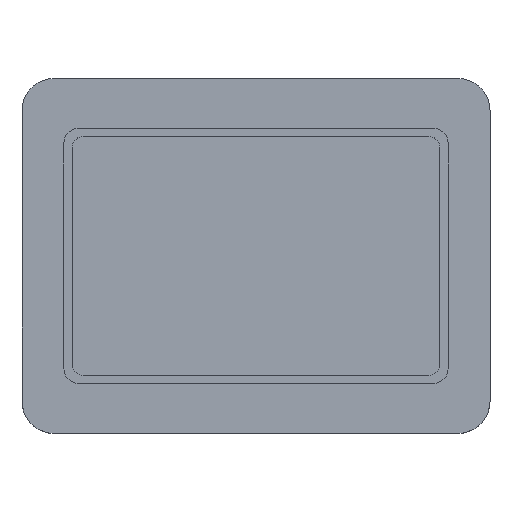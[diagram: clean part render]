
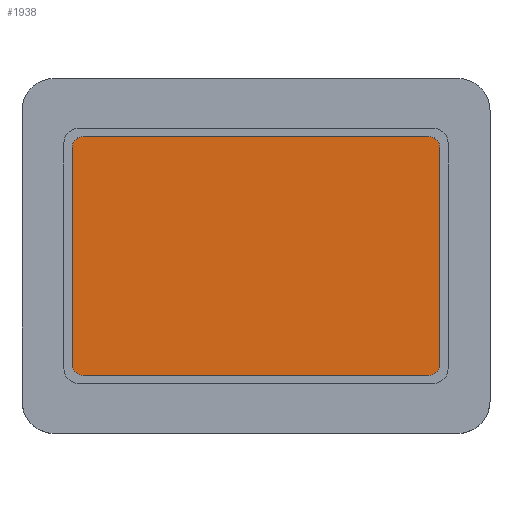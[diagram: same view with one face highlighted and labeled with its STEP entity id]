
A CAD part, top view. The second image highlights one B-rep face of the part: STEP entity #1938.
In plain terms, the highlighted planar face has unit normal (0, 0, 1).
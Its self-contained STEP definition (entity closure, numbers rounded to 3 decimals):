
#1331 = PLANE('',#1332);
#1332 = AXIS2_PLACEMENT_3D('',#1333,#1334,#1335);
#1333 = CARTESIAN_POINT('',(-11.4,-7.4,28.7));
#1334 = DIRECTION('',(0.,1.,0.));
#1335 = DIRECTION('',(1.,0.,0.));
#1359 = CYLINDRICAL_SURFACE('',#1360,0.7);
#1360 = AXIS2_PLACEMENT_3D('',#1361,#1362,#1363);
#1361 = CARTESIAN_POINT('',(-10.7,-6.7,28.7));
#1362 = DIRECTION('',(0.,0.,1.));
#1363 = DIRECTION('',(0.,-1.,0.));
#1386 = PLANE('',#1387);
#1387 = AXIS2_PLACEMENT_3D('',#1388,#1389,#1390);
#1388 = CARTESIAN_POINT('',(-11.4,7.4,28.7));
#1389 = DIRECTION('',(1.,0.,-0.));
#1390 = DIRECTION('',(0.,-1.,0.));
#1414 = CYLINDRICAL_SURFACE('',#1415,0.7);
#1415 = AXIS2_PLACEMENT_3D('',#1416,#1417,#1418);
#1416 = CARTESIAN_POINT('',(-10.7,6.7,28.7));
#1417 = DIRECTION('',(0.,0.,1.));
#1418 = DIRECTION('',(-0.,1.,0.));
#1441 = PLANE('',#1442);
#1442 = AXIS2_PLACEMENT_3D('',#1443,#1444,#1445);
#1443 = CARTESIAN_POINT('',(11.4,7.4,28.7));
#1444 = DIRECTION('',(0.,-1.,0.));
#1445 = DIRECTION('',(-1.,0.,0.));
#1469 = CYLINDRICAL_SURFACE('',#1470,0.7);
#1470 = AXIS2_PLACEMENT_3D('',#1471,#1472,#1473);
#1471 = CARTESIAN_POINT('',(10.7,6.7,28.7));
#1472 = DIRECTION('',(0.,0.,1.));
#1473 = DIRECTION('',(1.,0.,-0.));
#1496 = PLANE('',#1497);
#1497 = AXIS2_PLACEMENT_3D('',#1498,#1499,#1500);
#1498 = CARTESIAN_POINT('',(11.4,-7.4,28.7));
#1499 = DIRECTION('',(-1.,0.,0.));
#1500 = DIRECTION('',(0.,1.,0.));
#1522 = CYLINDRICAL_SURFACE('',#1523,0.7);
#1523 = AXIS2_PLACEMENT_3D('',#1524,#1525,#1526);
#1524 = CARTESIAN_POINT('',(10.7,-6.7,28.7));
#1525 = DIRECTION('',(0.,0.,1.));
#1526 = DIRECTION('',(0.,-1.,0.));
#1537 = EDGE_CURVE('',#1538,#1540,#1542,.T.);
#1538 = VERTEX_POINT('',#1539);
#1539 = CARTESIAN_POINT('',(-10.7,-7.4,28.7));
#1540 = VERTEX_POINT('',#1541);
#1541 = CARTESIAN_POINT('',(10.7,-7.4,28.7));
#1542 = SURFACE_CURVE('',#1543,(#1547,#1554),.PCURVE_S1.);
#1543 = LINE('',#1544,#1545);
#1544 = CARTESIAN_POINT('',(-11.4,-7.4,28.7));
#1545 = VECTOR('',#1546,1.);
#1546 = DIRECTION('',(1.,0.,0.));
#1547 = PCURVE('',#1331,#1548);
#1548 = DEFINITIONAL_REPRESENTATION('',(#1549),#1553);
#1549 = LINE('',#1550,#1551);
#1550 = CARTESIAN_POINT('',(0.,0.));
#1551 = VECTOR('',#1552,1.);
#1552 = DIRECTION('',(1.,0.));
#1553 = ( GEOMETRIC_REPRESENTATION_CONTEXT(2) 
PARAMETRIC_REPRESENTATION_CONTEXT() REPRESENTATION_CONTEXT('2D SPACE',''
  ) );
#1554 = PCURVE('',#1555,#1560);
#1555 = PLANE('',#1556);
#1556 = AXIS2_PLACEMENT_3D('',#1557,#1558,#1559);
#1557 = CARTESIAN_POINT('',(0.,0.,28.7));
#1558 = DIRECTION('',(0.,0.,1.));
#1559 = DIRECTION('',(1.,0.,-0.));
#1560 = DEFINITIONAL_REPRESENTATION('',(#1561),#1565);
#1561 = LINE('',#1562,#1563);
#1562 = CARTESIAN_POINT('',(-11.4,-7.4));
#1563 = VECTOR('',#1564,1.);
#1564 = DIRECTION('',(1.,0.));
#1565 = ( GEOMETRIC_REPRESENTATION_CONTEXT(2) 
PARAMETRIC_REPRESENTATION_CONTEXT() REPRESENTATION_CONTEXT('2D SPACE',''
  ) );
#1614 = EDGE_CURVE('',#1540,#1615,#1617,.T.);
#1615 = VERTEX_POINT('',#1616);
#1616 = CARTESIAN_POINT('',(11.4,-6.7,28.7));
#1617 = SURFACE_CURVE('',#1618,(#1623,#1630),.PCURVE_S1.);
#1618 = CIRCLE('',#1619,0.7);
#1619 = AXIS2_PLACEMENT_3D('',#1620,#1621,#1622);
#1620 = CARTESIAN_POINT('',(10.7,-6.7,28.7));
#1621 = DIRECTION('',(0.,0.,1.));
#1622 = DIRECTION('',(0.,-1.,0.));
#1623 = PCURVE('',#1522,#1624);
#1624 = DEFINITIONAL_REPRESENTATION('',(#1625),#1629);
#1625 = LINE('',#1626,#1627);
#1626 = CARTESIAN_POINT('',(0.,0.));
#1627 = VECTOR('',#1628,1.);
#1628 = DIRECTION('',(1.,0.));
#1629 = ( GEOMETRIC_REPRESENTATION_CONTEXT(2) 
PARAMETRIC_REPRESENTATION_CONTEXT() REPRESENTATION_CONTEXT('2D SPACE',''
  ) );
#1630 = PCURVE('',#1555,#1631);
#1631 = DEFINITIONAL_REPRESENTATION('',(#1632),#1636);
#1632 = CIRCLE('',#1633,0.7);
#1633 = AXIS2_PLACEMENT_2D('',#1634,#1635);
#1634 = CARTESIAN_POINT('',(10.7,-6.7));
#1635 = DIRECTION('',(0.,-1.));
#1636 = ( GEOMETRIC_REPRESENTATION_CONTEXT(2) 
PARAMETRIC_REPRESENTATION_CONTEXT() REPRESENTATION_CONTEXT('2D SPACE',''
  ) );
#1663 = EDGE_CURVE('',#1615,#1664,#1666,.T.);
#1664 = VERTEX_POINT('',#1665);
#1665 = CARTESIAN_POINT('',(11.4,6.7,28.7));
#1666 = SURFACE_CURVE('',#1667,(#1671,#1678),.PCURVE_S1.);
#1667 = LINE('',#1668,#1669);
#1668 = CARTESIAN_POINT('',(11.4,-7.4,28.7));
#1669 = VECTOR('',#1670,1.);
#1670 = DIRECTION('',(0.,1.,0.));
#1671 = PCURVE('',#1496,#1672);
#1672 = DEFINITIONAL_REPRESENTATION('',(#1673),#1677);
#1673 = LINE('',#1674,#1675);
#1674 = CARTESIAN_POINT('',(0.,0.));
#1675 = VECTOR('',#1676,1.);
#1676 = DIRECTION('',(1.,0.));
#1677 = ( GEOMETRIC_REPRESENTATION_CONTEXT(2) 
PARAMETRIC_REPRESENTATION_CONTEXT() REPRESENTATION_CONTEXT('2D SPACE',''
  ) );
#1678 = PCURVE('',#1555,#1679);
#1679 = DEFINITIONAL_REPRESENTATION('',(#1680),#1684);
#1680 = LINE('',#1681,#1682);
#1681 = CARTESIAN_POINT('',(11.4,-7.4));
#1682 = VECTOR('',#1683,1.);
#1683 = DIRECTION('',(0.,1.));
#1684 = ( GEOMETRIC_REPRESENTATION_CONTEXT(2) 
PARAMETRIC_REPRESENTATION_CONTEXT() REPRESENTATION_CONTEXT('2D SPACE',''
  ) );
#1713 = EDGE_CURVE('',#1664,#1714,#1716,.T.);
#1714 = VERTEX_POINT('',#1715);
#1715 = CARTESIAN_POINT('',(10.7,7.4,28.7));
#1716 = SURFACE_CURVE('',#1717,(#1722,#1729),.PCURVE_S1.);
#1717 = CIRCLE('',#1718,0.7);
#1718 = AXIS2_PLACEMENT_3D('',#1719,#1720,#1721);
#1719 = CARTESIAN_POINT('',(10.7,6.7,28.7));
#1720 = DIRECTION('',(0.,0.,1.));
#1721 = DIRECTION('',(0.,-1.,0.));
#1722 = PCURVE('',#1469,#1723);
#1723 = DEFINITIONAL_REPRESENTATION('',(#1724),#1728);
#1724 = LINE('',#1725,#1726);
#1725 = CARTESIAN_POINT('',(-1.571,0.));
#1726 = VECTOR('',#1727,1.);
#1727 = DIRECTION('',(1.,0.));
#1728 = ( GEOMETRIC_REPRESENTATION_CONTEXT(2) 
PARAMETRIC_REPRESENTATION_CONTEXT() REPRESENTATION_CONTEXT('2D SPACE',''
  ) );
#1729 = PCURVE('',#1555,#1730);
#1730 = DEFINITIONAL_REPRESENTATION('',(#1731),#1735);
#1731 = CIRCLE('',#1732,0.7);
#1732 = AXIS2_PLACEMENT_2D('',#1733,#1734);
#1733 = CARTESIAN_POINT('',(10.7,6.7));
#1734 = DIRECTION('',(0.,-1.));
#1735 = ( GEOMETRIC_REPRESENTATION_CONTEXT(2) 
PARAMETRIC_REPRESENTATION_CONTEXT() REPRESENTATION_CONTEXT('2D SPACE',''
  ) );
#1762 = EDGE_CURVE('',#1714,#1763,#1765,.T.);
#1763 = VERTEX_POINT('',#1764);
#1764 = CARTESIAN_POINT('',(-10.7,7.4,28.7));
#1765 = SURFACE_CURVE('',#1766,(#1770,#1777),.PCURVE_S1.);
#1766 = LINE('',#1767,#1768);
#1767 = CARTESIAN_POINT('',(11.4,7.4,28.7));
#1768 = VECTOR('',#1769,1.);
#1769 = DIRECTION('',(-1.,0.,0.));
#1770 = PCURVE('',#1441,#1771);
#1771 = DEFINITIONAL_REPRESENTATION('',(#1772),#1776);
#1772 = LINE('',#1773,#1774);
#1773 = CARTESIAN_POINT('',(0.,-0.));
#1774 = VECTOR('',#1775,1.);
#1775 = DIRECTION('',(1.,0.));
#1776 = ( GEOMETRIC_REPRESENTATION_CONTEXT(2) 
PARAMETRIC_REPRESENTATION_CONTEXT() REPRESENTATION_CONTEXT('2D SPACE',''
  ) );
#1777 = PCURVE('',#1555,#1778);
#1778 = DEFINITIONAL_REPRESENTATION('',(#1779),#1783);
#1779 = LINE('',#1780,#1781);
#1780 = CARTESIAN_POINT('',(11.4,7.4));
#1781 = VECTOR('',#1782,1.);
#1782 = DIRECTION('',(-1.,0.));
#1783 = ( GEOMETRIC_REPRESENTATION_CONTEXT(2) 
PARAMETRIC_REPRESENTATION_CONTEXT() REPRESENTATION_CONTEXT('2D SPACE',''
  ) );
#1812 = EDGE_CURVE('',#1763,#1813,#1815,.T.);
#1813 = VERTEX_POINT('',#1814);
#1814 = CARTESIAN_POINT('',(-11.4,6.7,28.7));
#1815 = SURFACE_CURVE('',#1816,(#1821,#1828),.PCURVE_S1.);
#1816 = CIRCLE('',#1817,0.7);
#1817 = AXIS2_PLACEMENT_3D('',#1818,#1819,#1820);
#1818 = CARTESIAN_POINT('',(-10.7,6.7,28.7));
#1819 = DIRECTION('',(0.,0.,1.));
#1820 = DIRECTION('',(0.,-1.,0.));
#1821 = PCURVE('',#1414,#1822);
#1822 = DEFINITIONAL_REPRESENTATION('',(#1823),#1827);
#1823 = LINE('',#1824,#1825);
#1824 = CARTESIAN_POINT('',(-3.142,0.));
#1825 = VECTOR('',#1826,1.);
#1826 = DIRECTION('',(1.,0.));
#1827 = ( GEOMETRIC_REPRESENTATION_CONTEXT(2) 
PARAMETRIC_REPRESENTATION_CONTEXT() REPRESENTATION_CONTEXT('2D SPACE',''
  ) );
#1828 = PCURVE('',#1555,#1829);
#1829 = DEFINITIONAL_REPRESENTATION('',(#1830),#1834);
#1830 = CIRCLE('',#1831,0.7);
#1831 = AXIS2_PLACEMENT_2D('',#1832,#1833);
#1832 = CARTESIAN_POINT('',(-10.7,6.7));
#1833 = DIRECTION('',(0.,-1.));
#1834 = ( GEOMETRIC_REPRESENTATION_CONTEXT(2) 
PARAMETRIC_REPRESENTATION_CONTEXT() REPRESENTATION_CONTEXT('2D SPACE',''
  ) );
#1861 = EDGE_CURVE('',#1813,#1862,#1864,.T.);
#1862 = VERTEX_POINT('',#1863);
#1863 = CARTESIAN_POINT('',(-11.4,-6.7,28.7));
#1864 = SURFACE_CURVE('',#1865,(#1869,#1876),.PCURVE_S1.);
#1865 = LINE('',#1866,#1867);
#1866 = CARTESIAN_POINT('',(-11.4,7.4,28.7));
#1867 = VECTOR('',#1868,1.);
#1868 = DIRECTION('',(0.,-1.,0.));
#1869 = PCURVE('',#1386,#1870);
#1870 = DEFINITIONAL_REPRESENTATION('',(#1871),#1875);
#1871 = LINE('',#1872,#1873);
#1872 = CARTESIAN_POINT('',(0.,0.));
#1873 = VECTOR('',#1874,1.);
#1874 = DIRECTION('',(1.,0.));
#1875 = ( GEOMETRIC_REPRESENTATION_CONTEXT(2) 
PARAMETRIC_REPRESENTATION_CONTEXT() REPRESENTATION_CONTEXT('2D SPACE',''
  ) );
#1876 = PCURVE('',#1555,#1877);
#1877 = DEFINITIONAL_REPRESENTATION('',(#1878),#1882);
#1878 = LINE('',#1879,#1880);
#1879 = CARTESIAN_POINT('',(-11.4,7.4));
#1880 = VECTOR('',#1881,1.);
#1881 = DIRECTION('',(0.,-1.));
#1882 = ( GEOMETRIC_REPRESENTATION_CONTEXT(2) 
PARAMETRIC_REPRESENTATION_CONTEXT() REPRESENTATION_CONTEXT('2D SPACE',''
  ) );
#1911 = EDGE_CURVE('',#1538,#1862,#1912,.T.);
#1912 = SURFACE_CURVE('',#1913,(#1918,#1925),.PCURVE_S1.);
#1913 = CIRCLE('',#1914,0.7);
#1914 = AXIS2_PLACEMENT_3D('',#1915,#1916,#1917);
#1915 = CARTESIAN_POINT('',(-10.7,-6.7,28.7));
#1916 = DIRECTION('',(-0.,-0.,-1.));
#1917 = DIRECTION('',(0.,-1.,0.));
#1918 = PCURVE('',#1359,#1919);
#1919 = DEFINITIONAL_REPRESENTATION('',(#1920),#1924);
#1920 = LINE('',#1921,#1922);
#1921 = CARTESIAN_POINT('',(-0.,0.));
#1922 = VECTOR('',#1923,1.);
#1923 = DIRECTION('',(-1.,0.));
#1924 = ( GEOMETRIC_REPRESENTATION_CONTEXT(2) 
PARAMETRIC_REPRESENTATION_CONTEXT() REPRESENTATION_CONTEXT('2D SPACE',''
  ) );
#1925 = PCURVE('',#1555,#1926);
#1926 = DEFINITIONAL_REPRESENTATION('',(#1927),#1935);
#1927 = ( BOUNDED_CURVE() B_SPLINE_CURVE(2,(#1928,#1929,#1930,#1931,
#1932,#1933,#1934),.UNSPECIFIED.,.T.,.F.) B_SPLINE_CURVE_WITH_KNOTS((1,2
    ,2,2,2,1),(-2.094,0.,2.094,4.189,
6.283,8.378),.UNSPECIFIED.) CURVE() 
GEOMETRIC_REPRESENTATION_ITEM() RATIONAL_B_SPLINE_CURVE((1.,0.5,1.,0.5,
1.,0.5,1.)) REPRESENTATION_ITEM('') );
#1928 = CARTESIAN_POINT('',(-10.7,-7.4));
#1929 = CARTESIAN_POINT('',(-11.912,-7.4));
#1930 = CARTESIAN_POINT('',(-11.306,-6.35));
#1931 = CARTESIAN_POINT('',(-10.7,-5.3));
#1932 = CARTESIAN_POINT('',(-10.094,-6.35));
#1933 = CARTESIAN_POINT('',(-9.488,-7.4));
#1934 = CARTESIAN_POINT('',(-10.7,-7.4));
#1935 = ( GEOMETRIC_REPRESENTATION_CONTEXT(2) 
PARAMETRIC_REPRESENTATION_CONTEXT() REPRESENTATION_CONTEXT('2D SPACE',''
  ) );
#1938 = ADVANCED_FACE('',(#1939),#1555,.T.);
#1939 = FACE_BOUND('',#1940,.T.);
#1940 = EDGE_LOOP('',(#1941,#1942,#1943,#1944,#1945,#1946,#1947,#1948));
#1941 = ORIENTED_EDGE('',*,*,#1537,.T.);
#1942 = ORIENTED_EDGE('',*,*,#1614,.T.);
#1943 = ORIENTED_EDGE('',*,*,#1663,.T.);
#1944 = ORIENTED_EDGE('',*,*,#1713,.T.);
#1945 = ORIENTED_EDGE('',*,*,#1762,.T.);
#1946 = ORIENTED_EDGE('',*,*,#1812,.T.);
#1947 = ORIENTED_EDGE('',*,*,#1861,.T.);
#1948 = ORIENTED_EDGE('',*,*,#1911,.F.);
